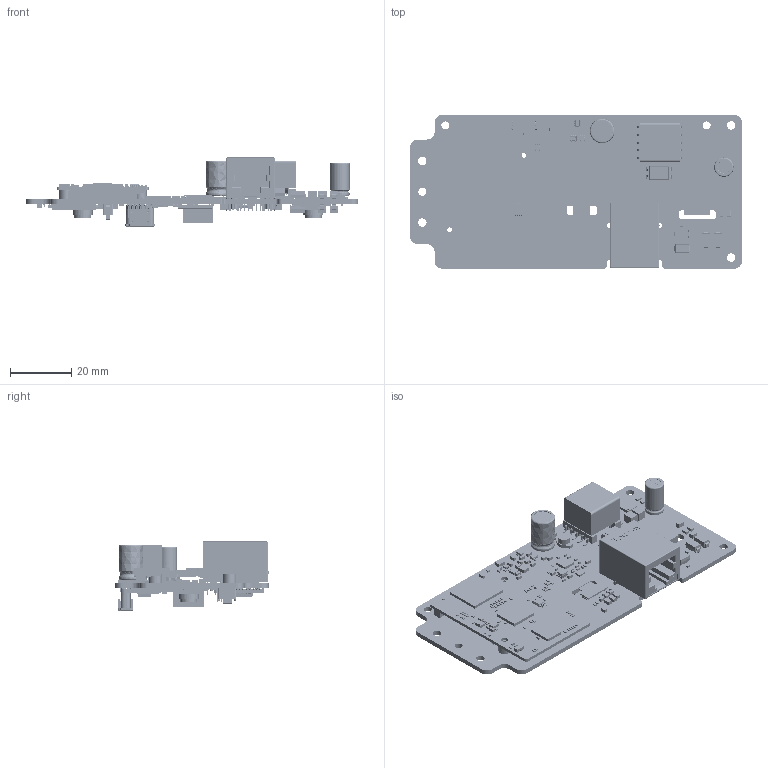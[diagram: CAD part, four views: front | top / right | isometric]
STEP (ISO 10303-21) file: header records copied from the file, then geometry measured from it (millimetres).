
FILE_DESCRIPTION(('Open CASCADE Model'),'2;1');
FILE_NAME('Open CASCADE Shape Model','2021-07-22T11:47:20',('Author'),( 'Open CASCADE'),'Open CASCADE STEP processor 6.8','Open CASCADE 6.8' ,'Unknown');
FILE_SCHEMA(('AUTOMOTIVE_DESIGN { 1 0 10303 214 1 1 1 1 }'));
Products named in the file (1): PCB
Bounding box: 108 x 50.16 x 22.45 mm (x, y, z)
Volume: 17324 mm3; surface area: 30306.4 mm2
Topology: 1438 solids, 3532 shells, 23847 faces, 64500 edges, 47073 vertices
Faces by surface type: plane 18974, cylinder 4017, bspline 389, sphere 156, torus 139, cone 113, extrusion 53, revolution 6
Full cylindrical faces by diameter (mm): 0.203 x4, 0.3 x2, 0.4 x1, 0.5 x2, 0.8 x4, 0.86 x2, 0.9 x14, 1.02 x4, 1.567 x2, 1.7 x2, 2.6 x5, 2.75 x4, 2.8 x2, 3 x2, 3.2 x2, 4.35 x2, 4.5 x2, 4.6 x1, 5.5 x2, 6.5 x2, 8.481 x1
Entity records: 787030 total; most frequent: CARTESIAN_POINT 158707, DIRECTION 118682, ORIENTED_EDGE 116114, EDGE_CURVE 63335, VECTOR 53278, LINE 53225, VERTEX_POINT 44945, AXIS2_PLACEMENT_3D 32699
